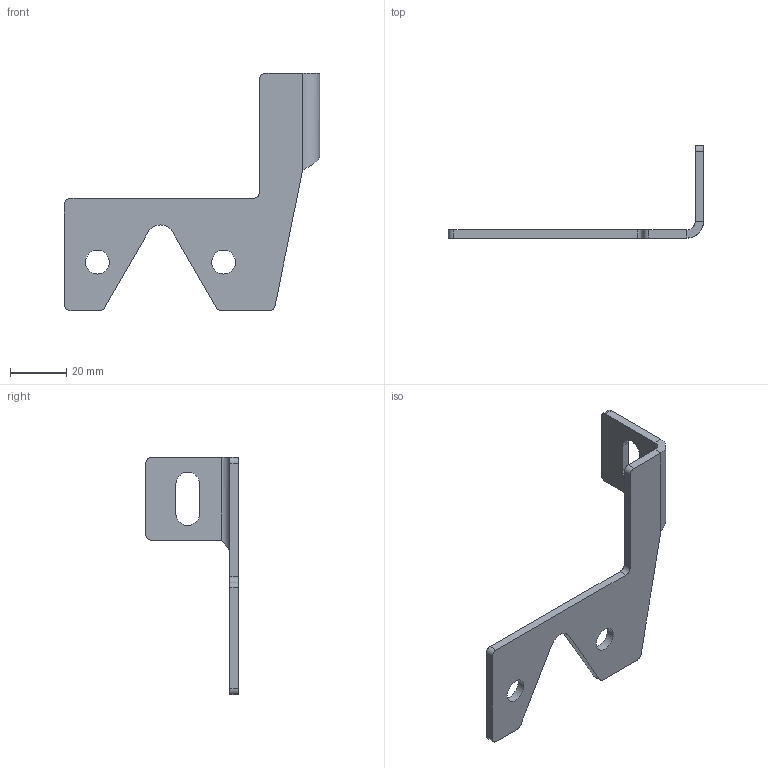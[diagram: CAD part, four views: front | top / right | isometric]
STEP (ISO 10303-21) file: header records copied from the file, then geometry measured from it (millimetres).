
FILE_DESCRIPTION(/* description */ (''),/* implementation_level */ '2;1');
FILE_NAME(/* name */ 'SG1200060001.stp',/* time_stamp */ '2024-02-07T14:04:05+01:00',/* author */ ('r.biemans'),/* organization */ ('BCK Holland b.v.'),/* preprocessor_version */ 'ST-DEVELOPER v19.2',/* originating_system */ 'Autodesk Inventor 2023',/* authorisation */ '');
FILE_SCHEMA (('AUTOMOTIVE_DESIGN { 1 0 10303 214 3 1 1 }'));
Length unit declared in the file: millimetre
Products named in the file (1): SG1200060001
Bounding box: 91 x 33 x 84.5 mm (x, y, z)
Volume: 11641.8 mm3; surface area: 9332.4 mm2
Topology: 1 solids, 1 shells, 36 faces, 94 edges, 60 vertices
Faces by surface type: plane 19, cylinder 16, bspline 1
Full cylindrical faces by diameter (mm): 8.5 x2
Entity records: 1202 total; most frequent: CARTESIAN_POINT 232, DIRECTION 194, ORIENTED_EDGE 188, EDGE_CURVE 94, AXIS2_PLACEMENT_3D 66, LINE 62, VECTOR 62, VERTEX_POINT 60
